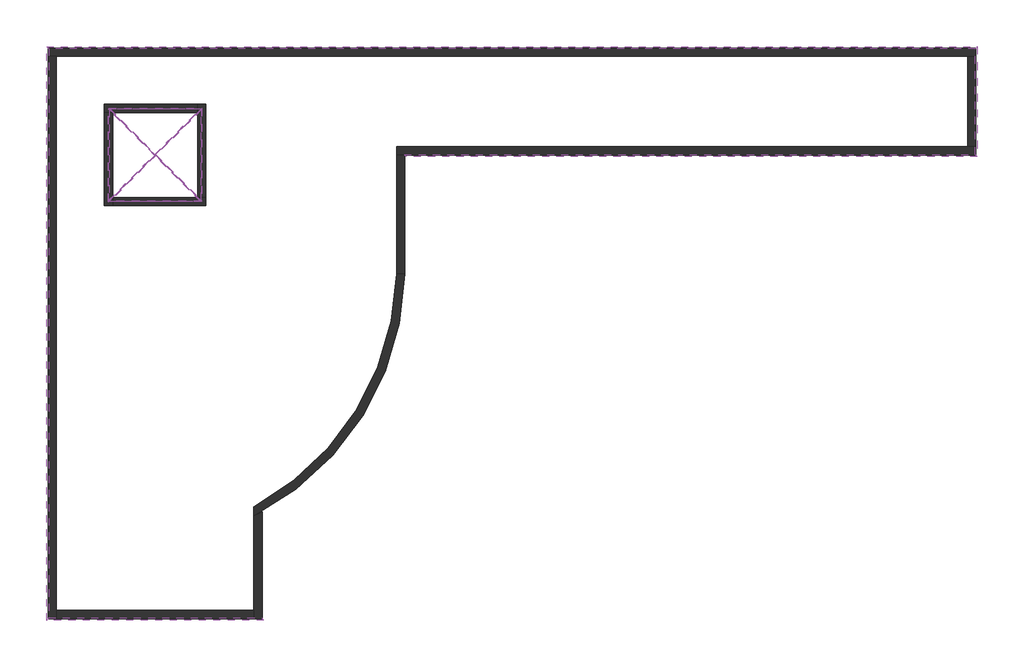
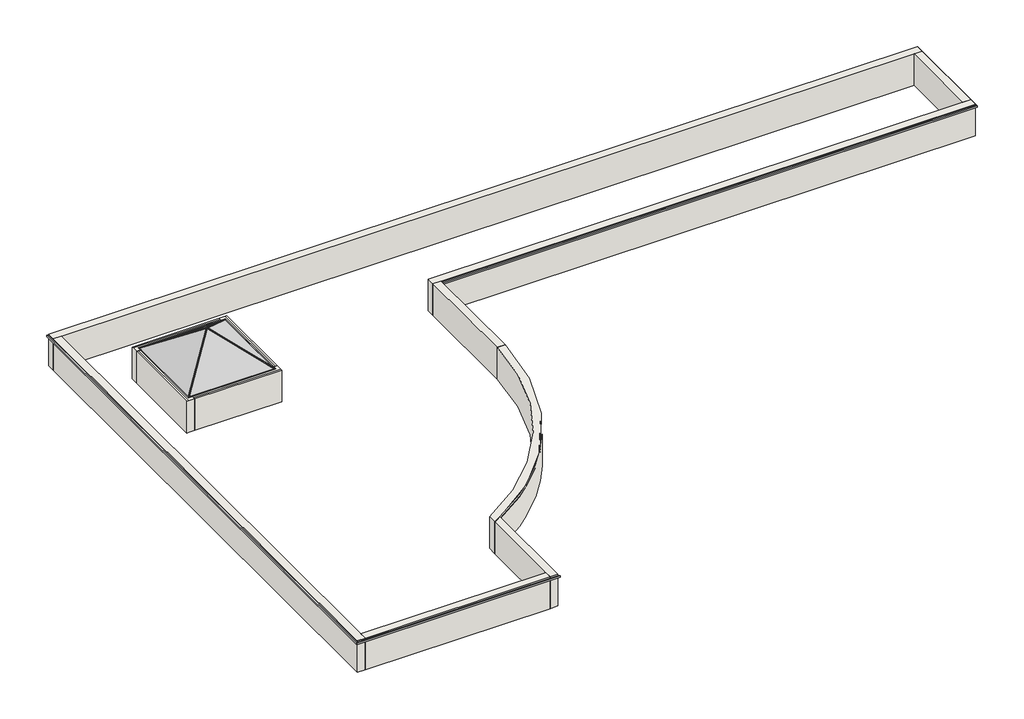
# One storey, incomplete: 12 members, 12 walls, 5 proxies, 4 plates.
"""IFC4 building model written with IfcOpenShell, lengths in millimetres."""

from ifc_helpers import new_model, si_unit, frame, origin, place, context, project, spatial, polyline, circle_curve, outline, extrude, faceted_brep, transform, mapped, element, save
from ifc_brep_helpers import plane_surface, cylinder_surface, revolved_surface, advanced_brep
from components import member_621c6d7b, member_86c85992, member_e654893a, system_panel_glazed_41d4b6ee

model = new_model("IFC4")

# Units and contexts
model_context = context("Model", 3, world=origin())
ifc_project = project(units=[si_unit("LENGTHUNIT", "METRE", prefix="MILLI")], contexts=[model_context])

# Site, building, storey
site = spatial("IfcSite", under=ifc_project)
building = spatial("IfcBuilding", under=site)
storey = spatial("IfcBuildingStorey", under=building, Name="04 T.O. Roof", Elevation=13716.0)

# Proxies
placement = place(None, origin())
element("IfcBuildingElementProxy", 1, Name="Reveals", at=placement, inside=storey, context=model_context, shape_type="SweptSolid", body=[
    extrude(outline(polyline([(-19497.3273699, 9224.7746638), (-19589.4023699, 9316.8496638), (20167.9476301, 9316.8496638), (20075.8726301, 9224.7746638), (-19497.3273699, 9224.7746638)])), frame((0.0, 0.0, 15113.0), z_axis=(0.0, 0.0, 1.0), x_axis=(1.0, 0.0, 0.0)), (0.0, 0.0, 1.0), 67.7333333),
])
element("IfcBuildingElementProxy", 2, Name="Reveals", at=placement, inside=storey, context=model_context, shape_type="SweptSolid", body=[
    extrude(outline(polyline([(-19497.3273699, -15108.4253362), (-19589.4023699, -15200.5003362), (-19589.4023699, 9316.8496638), (-19497.3273699, 9224.7746638), (-19497.3273699, -15108.4253362)])), frame((0.0, 0.0, 15113.0), z_axis=(0.0, 0.0, 1.0), x_axis=(1.0, 0.0, 0.0)), (0.0, 0.0, 1.0), 67.7333333),
])
element("IfcBuildingElementProxy", 3, Name="Reveals", at=placement, inside=storey, context=model_context, shape_type="SweptSolid", body=[
    extrude(outline(polyline([(-4216.0523699, 4611.4996638), (-4308.1273699, 4703.5746638), (20075.8726301, 4703.5746638), (20167.9476301, 4611.4996638), (-4216.0523699, 4611.4996638)])), frame((0.0, 0.0, 15113.0), z_axis=(0.0, 0.0, 1.0), x_axis=(1.0, 0.0, 0.0)), (0.0, 0.0, 1.0), 67.7333333),
])
element("IfcBuildingElementProxy", 4, Name="Reveals", at=placement, inside=storey, context=model_context, shape_type="SweptSolid", body=[
    extrude(outline(polyline([(20167.9476301, 4611.4996638), (20075.8726301, 4703.5746638), (20075.8726301, 9224.7746638), (20167.9476301, 9316.8496638), (20167.9476301, 4611.4996638)])), frame((0.0, 0.0, 15113.0), z_axis=(0.0, 0.0, 1.0), x_axis=(1.0, 0.0, 0.0)), (0.0, 0.0, 1.0), 67.7333333),
])
element("IfcBuildingElementProxy", 5, Name="Reveals", at=placement, inside=storey, context=model_context, shape_type="SweptSolid", body=[
    extrude(outline(polyline([(-19589.4023699, -15200.5003362), (-19497.3273699, -15108.4253362), (-10404.1273699, -15108.4253362), (-10312.0523699, -15200.5003362), (-19589.4023699, -15200.5003362)])), frame((0.0, 0.0, 15113.0), z_axis=(0.0, 0.0, 1.0), x_axis=(1.0, 0.0, 0.0)), (0.0, 0.0, 1.0), 67.7333333),
])

# Members
member_shape = member_621c6d7b(model_context)
element("IfcMember", 6, ObjectType="Rectangular Mullion : 1\" Square", at=placement, inside=storey, context=model_context, shape_type="MappedRepresentation", body=[
    mapped(member_shape, transform((-12963.1773699, 6665.7246638, 15240.0), x_axis=(0.7999999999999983, 0.0, -0.6000000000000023), y_axis=(-0.6000000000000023, 0.0, -0.7999999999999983), z_axis=(0.0, 1.0, 0.0))),
])
element("IfcMember", 7, ObjectType="Rectangular Mullion : 1\" Square", at=placement, inside=storey, context=model_context, shape_type="MappedRepresentation", body=[
    mapped(member_shape, transform((-16938.2773699, 2690.6246638, 15240.0), x_axis=(-0.7999999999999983, 0.0, -0.6000000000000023), y_axis=(0.6000000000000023, 0.0, -0.7999999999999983), z_axis=(0.0, -1.0, 0.0))),
])
element("IfcMember", 8, ObjectType="Rectangular Mullion : 1\" Square", at=placement, inside=storey, context=model_context, shape_type="MappedRepresentation", body=[
    mapped(member_shape, transform((-16938.2773699, 6665.7246638, 15240.0), x_axis=(0.0, 0.7999999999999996, -0.6000000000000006), y_axis=(0.0, -0.6000000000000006, -0.7999999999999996), z_axis=(-1.0, 0.0, 0.0))),
])
member_2_shape = member_86c85992(model_context)
element("IfcMember", 9, ObjectType="Rectangular Mullion : 1\" Square", at=placement, inside=storey, context=model_context, shape_type="MappedRepresentation", body=[
    mapped(member_2_shape, transform((-12963.1773699, 2690.6246638, 15240.0), x_axis=(-0.49975603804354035, -0.7808688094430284, 0.3748170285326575), y_axis=(-0.6000000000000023, 0.0, -0.7999999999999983), z_axis=(0.6246950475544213, -0.6246950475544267, -0.4685212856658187))),
])
element("IfcMember", 10, ObjectType="Rectangular Mullion : 1\" Square", at=placement, inside=storey, context=model_context, shape_type="MappedRepresentation", body=[
    mapped(member_2_shape, transform((-16938.2773699, 2690.6246638, 15240.0), x_axis=(-0.7808688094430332, 0.49975603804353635, 0.37481702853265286), y_axis=(0.0, 0.6000000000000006, -0.7999999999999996), z_axis=(-0.6246950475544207, -0.6246950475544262, -0.46852128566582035))),
])
member_3_shape = member_e654893a(model_context)
element("IfcMember", 11, ObjectType="Rectangular Mullion : 1\" Square", at=placement, inside=storey, context=model_context, shape_type="MappedRepresentation", body=[
    mapped(member_3_shape, transform((-14950.7273699, 4678.1746638, 16730.6625), x_axis=(-0.4997560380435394, 0.7808688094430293, 0.3748170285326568), y_axis=(-0.6000000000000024, 0.0, -0.7999999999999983), z_axis=(-0.624695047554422, -0.6246950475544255, 0.46852128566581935))),
])
element("IfcMember", 12, ObjectType="Rectangular Mullion : 1\" Square", at=placement, inside=storey, context=model_context, shape_type="MappedRepresentation", body=[
    mapped(member_2_shape, transform((-16938.2773699, 6665.7246638, 15240.0), x_axis=(0.4997560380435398, 0.7808688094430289, 0.3748170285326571), y_axis=(0.6000000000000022, 0.0, -0.7999999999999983), z_axis=(-0.6246950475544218, 0.6246950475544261, -0.4685212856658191))),
])
element("IfcMember", 13, ObjectType="Rectangular Mullion : 1\" Square", at=placement, inside=storey, context=model_context, shape_type="MappedRepresentation", body=[
    mapped(member_2_shape, transform((-12963.1773699, 6665.7246638, 15240.0), x_axis=(0.7808688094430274, -0.4997560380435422, 0.37481702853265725), y_axis=(0.0, -0.6000000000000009, -0.7999999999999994), z_axis=(0.6246950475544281, 0.6246950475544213, -0.46852128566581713))),
])
element("IfcMember", 14, ObjectType="Rectangular Mullion : 1\" Square", at=placement, inside=storey, context=model_context, shape_type="MappedRepresentation", body=[
    mapped(member_3_shape, transform((-14950.7273699, 4678.1746638, 16730.6625), x_axis=(0.49975603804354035, -0.7808688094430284, 0.3748170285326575), y_axis=(0.6000000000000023, 0.0, -0.7999999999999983), z_axis=(0.6246950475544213, 0.6246950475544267, 0.4685212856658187))),
])
element("IfcMember", 15, ObjectType="Rectangular Mullion : 1\" Square", at=placement, inside=storey, context=model_context, shape_type="MappedRepresentation", body=[
    mapped(member_3_shape, transform((-14950.7273699, 4678.1746638, 16730.6625), x_axis=(-0.7808688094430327, -0.4997560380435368, 0.3748170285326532), y_axis=(0.0, -0.6000000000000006, -0.7999999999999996), z_axis=(0.6246950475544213, -0.6246950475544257, 0.4685212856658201))),
])
element("IfcMember", 16, ObjectType="Rectangular Mullion : 1\" Square", at=placement, inside=storey, context=model_context, shape_type="MappedRepresentation", body=[
    mapped(member_shape, transform((-12963.1773699, 2690.6246638, 15240.0), x_axis=(0.0, -0.7999999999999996, -0.6000000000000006), y_axis=(0.0, 0.6000000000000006, -0.7999999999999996), z_axis=(1.0, 0.0, 0.0))),
])
element("IfcMember", 17, ObjectType="Rectangular Mullion : 1\" Square", at=placement, inside=storey, context=model_context, shape_type="MappedRepresentation", body=[
    mapped(member_3_shape, transform((-14950.7273699, 4678.1746638, 16730.6625), x_axis=(0.7808688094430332, 0.49975603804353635, 0.37481702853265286), y_axis=(0.0, 0.6000000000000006, -0.7999999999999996), z_axis=(-0.6246950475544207, 0.6246950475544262, 0.46852128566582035))),
])

# Plates
system_panel_glazed_shape = system_panel_glazed_41d4b6ee(model_context)
element("IfcPlate", 18, ObjectType="System Panel : Glazed", at=placement, inside=storey, context=model_context, shape_type="MappedRepresentation", body=[
    mapped(system_panel_glazed_shape, transform((-14950.7273699, 6665.7246638, 15240.0), x_axis=(-1.0, 0.0, 0.0), y_axis=(0.0, -0.6000000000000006, -0.7999999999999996), z_axis=(0.0, -0.7999999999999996, 0.6000000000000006))),
])
element("IfcPlate", 19, ObjectType="System Panel : Glazed", at=placement, inside=storey, context=model_context, shape_type="MappedRepresentation", body=[
    mapped(system_panel_glazed_shape, transform((-16938.2773699, 4678.1746638, 15240.0), x_axis=(0.0, -1.0, 0.0), y_axis=(0.6000000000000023, 0.0, -0.7999999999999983), z_axis=(0.7999999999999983, 0.0, 0.6000000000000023))),
])
element("IfcPlate", 20, ObjectType="System Panel : Glazed", at=placement, inside=storey, context=model_context, shape_type="MappedRepresentation", body=[
    mapped(system_panel_glazed_shape, transform((-14950.7273699, 2690.6246638, 15240.0), x_axis=(1.0, 0.0, 0.0), y_axis=(0.0, 0.6000000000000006, -0.7999999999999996), z_axis=(0.0, 0.7999999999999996, 0.6000000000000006))),
])
element("IfcPlate", 21, ObjectType="System Panel : Glazed", at=placement, inside=storey, context=model_context, shape_type="MappedRepresentation", body=[
    mapped(system_panel_glazed_shape, transform((-12963.1773699, 4678.1746638, 15240.0), x_axis=(0.0, 1.0, 0.0), y_axis=(-0.6000000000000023, 0.0, -0.7999999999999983), z_axis=(-0.7999999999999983, 0.0, 0.6000000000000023))),
])

# Walls
element("IfcWall", 22, ObjectType="Ext Wall_14\"_Brick on CMU_E1", at=placement, inside=storey, context=model_context, shape_type="Brep", body=[
    faceted_brep([(-17116.0773699, 6487.9246638, 13716.0), (-16760.4773699, 6487.9246638, 13716.0), (-13140.9773699, 6487.9246638, 13716.0), (-13140.9773699, 6487.9246638, 15240.0), (-16760.4773699, 6487.9246638, 15240.0), (-17116.0773699, 6487.9246638, 15240.0), (-17116.0773699, 6843.5246638, 13716.0), (-17116.0773699, 6843.5246638, 15240.0), (-13140.9773699, 6843.5246638, 15240.0), (-13140.9773699, 6843.5246638, 13716.0), (-17116.0773699, 6767.3246638, 15240.0), (-17116.0773699, 6767.3246638, 13716.0), (-13140.9773699, 6767.3246638, 13716.0), (-13140.9773699, 6767.3246638, 15240.0)], [[[0, 1, 2, 3, 4, 5]], [[6, 7, 8, 9]], [[0, 5, 10, 7, 6, 11]], [[3, 2, 12, 9, 8, 13]], [[2, 1, 0, 11, 12]], [[11, 6, 9, 12]], [[13, 8, 7, 10]], [[5, 4, 3, 13, 10]]]),
])
element("IfcWall", 23, ObjectType="Ext Wall_14\"_Brick on CMU_E1", at=placement, inside=storey, context=model_context, shape_type="Brep", body=[
    faceted_brep([(-16760.4773699, 2512.8246638, 13716.0), (-16760.4773699, 2868.4246638, 13716.0), (-16760.4773699, 6487.9246638, 13716.0), (-16760.4773699, 6487.9246638, 15240.0), (-16760.4773699, 2868.4246638, 15240.0), (-16760.4773699, 2512.8246638, 15240.0), (-17116.0773699, 2512.8246638, 13716.0), (-17116.0773699, 2512.8246638, 15240.0), (-17116.0773699, 6487.9246638, 15240.0), (-17116.0773699, 6487.9246638, 13716.0), (-17039.8773699, 2512.8246638, 15240.0), (-17039.8773699, 2512.8246638, 13716.0), (-17039.8773699, 6487.9246638, 13716.0), (-17039.8773699, 6487.9246638, 15240.0)], [[[0, 1, 2, 3, 4, 5]], [[6, 7, 8, 9]], [[0, 5, 10, 7, 6, 11]], [[3, 2, 12, 9, 8, 13]], [[2, 1, 0, 11, 12]], [[11, 6, 9, 12]], [[13, 8, 7, 10]], [[5, 4, 3, 13, 10]]]),
])
element("IfcWall", 24, ObjectType="Ext Wall_14\"_Brick on CMU_E1", at=placement, inside=storey, context=model_context, shape_type="Brep", body=[
    faceted_brep([(-12785.3773699, 2868.4246638, 13716.0), (-13140.9773699, 2868.4246638, 13716.0), (-16760.4773699, 2868.4246638, 13716.0), (-16760.4773699, 2868.4246638, 15240.0), (-13140.9773699, 2868.4246638, 15240.0), (-12785.3773699, 2868.4246638, 15240.0), (-12785.3773699, 2512.8246638, 13716.0), (-12785.3773699, 2512.8246638, 15240.0), (-16760.4773699, 2512.8246638, 15240.0), (-16760.4773699, 2512.8246638, 13716.0), (-12785.3773699, 2589.0246638, 15240.0), (-12785.3773699, 2589.0246638, 13716.0), (-16760.4773699, 2589.0246638, 13716.0), (-16760.4773699, 2589.0246638, 15240.0)], [[[0, 1, 2, 3, 4, 5]], [[6, 7, 8, 9]], [[0, 5, 10, 7, 6, 11]], [[3, 2, 12, 9, 8, 13]], [[2, 1, 0, 11, 12]], [[11, 6, 9, 12]], [[13, 8, 7, 10]], [[5, 4, 3, 13, 10]]]),
])
element("IfcWall", 25, ObjectType="Ext Wall_14\"_Brick on CMU_E1", at=placement, inside=storey, context=model_context, shape_type="Brep", body=[
    faceted_brep([(-13140.9773699, 6843.5246638, 13716.0), (-13140.9773699, 6487.9246638, 13716.0), (-13140.9773699, 2868.4246638, 13716.0), (-13140.9773699, 2868.4246638, 15240.0), (-13140.9773699, 6487.9246638, 15240.0), (-13140.9773699, 6843.5246638, 15240.0), (-12785.3773699, 6843.5246638, 13716.0), (-12785.3773699, 6843.5246638, 15240.0), (-12785.3773699, 2868.4246638, 15240.0), (-12785.3773699, 2868.4246638, 13716.0), (-12861.5773699, 6843.5246638, 15240.0), (-12861.5773699, 6843.5246638, 13716.0), (-12861.5773699, 2868.4246638, 13716.0), (-12861.5773699, 2868.4246638, 15240.0)], [[[0, 1, 2, 3, 4, 5]], [[6, 7, 8, 9]], [[0, 5, 10, 7, 6, 11]], [[3, 2, 12, 9, 8, 13]], [[2, 1, 0, 11, 12]], [[11, 6, 9, 12]], [[13, 8, 7, 10]], [[5, 4, 3, 13, 10]]]),
])
element("IfcWall", 26, ObjectType="Parapet_14\"_Brick on CMU", at=placement, inside=storey, context=model_context, shape_type="Brep", body=[
    faceted_brep([(-19522.7273699, 8894.5746638, 13716.0), (-19167.1273699, 8894.5746638, 13716.0), (19745.6726301, 8894.5746638, 13716.0), (20101.2726301, 8894.5746638, 13716.0), (20101.2726301, 8894.5746638, 15113.0), (20075.8726301, 8894.5746638, 15113.0), (20075.8726301, 8894.5746638, 15180.7333333), (20101.2726301, 8894.5746638, 15180.7333333), (20101.2726301, 8894.5746638, 15240.0), (19745.6726301, 8894.5746638, 15240.0), (-19167.1273699, 8894.5746638, 15240.0), (-19522.7273699, 8894.5746638, 15240.0), (-19522.7273699, 8894.5746638, 15180.7333333), (-19497.3273699, 8894.5746638, 15180.7333333), (-19497.3273699, 8894.5746638, 15113.0), (-19522.7273699, 8894.5746638, 15113.0), (20101.2726301, 9250.1746638, 13716.0), (-19522.7273699, 9250.1746638, 13716.0), (-19522.7273699, 9250.1746638, 15113.0), (20101.2726301, 9250.1746638, 15113.0), (-19522.7273699, 9250.1746638, 15240.0), (20101.2726301, 9250.1746638, 15240.0), (20101.2726301, 9250.1746638, 15180.7333333), (-19522.7273699, 9250.1746638, 15180.7333333), (20075.8726301, 9224.7746638, 15180.7333333), (-19497.3273699, 9224.7746638, 15180.7333333), (-19497.3273699, 9224.7746638, 15113.0), (20075.8726301, 9224.7746638, 15113.0)], [[[0, 1, 2, 3, 4, 5, 6, 7, 8, 9, 10, 11, 12, 13, 14, 15]], [[16, 17, 18, 19]], [[20, 21, 22, 23]], [[3, 2, 1, 0, 17, 16]], [[11, 10, 9, 8, 21, 20]], [[11, 20, 23, 12]], [[17, 0, 15, 18]], [[3, 16, 19, 4]], [[21, 8, 7, 22]], [[24, 25, 13, 12, 23, 22, 7, 6]], [[26, 27, 5, 4, 19, 18, 15, 14]], [[25, 26, 14, 13]], [[25, 24, 27, 26]], [[27, 24, 6, 5]]]),
])
element("IfcWall", 27, ObjectType="Parapet_14\"_Brick on CMU", at=placement, inside=storey, context=model_context, shape_type="Brep", body=[
    faceted_brep([(-19167.1273699, -15133.8253362, 13716.0), (-19167.1273699, -14778.2253362, 13716.0), (-19167.1273699, 8894.5746638, 13716.0), (-19167.1273699, 8894.5746638, 15240.0), (-19167.1273699, -14778.2253362, 15240.0), (-19167.1273699, -15133.8253362, 15240.0), (-19167.1273699, -15133.8253362, 15180.7333333), (-19167.1273699, -15108.4253362, 15180.7333333), (-19167.1273699, -15108.4253362, 15113.0), (-19167.1273699, -15133.8253362, 15113.0), (-19522.7273699, 8894.5746638, 13716.0), (-19522.7273699, -15133.8253362, 13716.0), (-19522.7273699, -15133.8253362, 15113.0), (-19522.7273699, 8894.5746638, 15113.0), (-19522.7273699, -15133.8253362, 15240.0), (-19522.7273699, 8894.5746638, 15240.0), (-19522.7273699, 8894.5746638, 15180.7333333), (-19522.7273699, -15133.8253362, 15180.7333333), (-19497.3273699, 8894.5746638, 15113.0), (-19497.3273699, 8894.5746638, 15180.7333333), (-19497.3273699, -15108.4253362, 15180.7333333), (-19497.3273699, -15108.4253362, 15113.0)], [[[0, 1, 2, 3, 4, 5, 6, 7, 8, 9]], [[10, 11, 12, 13]], [[14, 15, 16, 17]], [[2, 1, 0, 11, 10]], [[5, 4, 3, 15, 14]], [[3, 2, 10, 13, 18, 19, 16, 15]], [[19, 20, 7, 6, 17, 16]], [[8, 21, 18, 13, 12, 9]], [[20, 21, 8, 7]], [[21, 20, 19, 18]], [[5, 14, 17, 6]], [[11, 0, 9, 12]]]),
])
element("IfcWall", 28, ObjectType="Parapet_14\"_Brick on CMU", at=placement, inside=storey, context=model_context, shape_type="SweptSolid", body=[
    extrude(outline(polyline([(-15133.8253362, 15240.0), (-14778.2253362, 15240.0), (-14778.2253362, 13716.0), (-15133.8253362, 13716.0), (-15133.8253362, 15113.0), (-15108.4253362, 15113.0), (-15108.4253362, 15180.7333333), (-15133.8253362, 15180.7333333), (-15133.8253362, 15240.0)])), frame((-19167.1273699, 0.0, 0.0), z_axis=(1.0, 0.0, 0.0), x_axis=(0.0, 1.0, 0.0)), (0.0, 0.0, 1.0), 8432.8),
])
element("IfcWall", 29, ObjectType="Parapet_14\"_Brick on CMU", at=placement, inside=storey, context=model_context, shape_type="AdvancedBrep", body=[
    advanced_brep(
    [(-10734.3273699, -10753.4735974, 13716.0), (-10734.3273699, -14778.2253362, 13716.0), (-10734.3273699, -15133.8253362, 13716.0), (-10734.3273699, -15133.8253362, 15113.0), (-10734.3273699, -15108.4253362, 15113.0), (-10734.3273699, -15108.4253362, 15180.7333333), (-10734.3273699, -15133.8253362, 15180.7333333), (-10734.3273699, -15133.8253362, 15240.0), (-10734.3273699, -14778.2253362, 15240.0), (-10734.3273699, -10753.4735974, 15240.0), (-10378.7273699, -15133.8253362, 13716.0), (-10378.7273699, -10561.8253362, 13716.0), (-10378.7273699, -10561.8253362, 15113.0), (-10378.7273699, -15133.8253362, 15113.0), (-10378.7273699, -10561.8253362, 15240.0), (-10378.7273699, -15133.8253362, 15240.0), (-10378.7273699, -15133.8253362, 15180.7333333), (-10378.7273699, -10561.8253362, 15180.7333333), (-10404.1273699, -10576.0334488, 15180.7333333), (-10404.1273699, -10576.0334488, 15113.0), (-10404.1273699, -15108.4253362, 15180.7333333), (-10404.1273699, -15108.4253362, 15113.0)],
    [
        (0, 1),
        (1, 2),
        (2, 3),
        (3, 4),
        (4, 5),
        (5, 6),
        (6, 7),
        (7, 8),
        (8, 9),
        (9, 0),
        (10, 11),
        (11, 12),
        (12, 13),
        (13, 10),
        (14, 15),
        (15, 16),
        (16, 17),
        (17, 14),
        (0, 11, circle_curve(frame((-16220.7273699, -147.8253362, 13716.0), z_axis=(0.0, 0.0, 1.0), x_axis=(1.0, 0.0, 0.0)), 11940.7018219)),
        (10, 2),
        (7, 15),
        (14, 9, circle_curve(frame((-16220.7273699, -147.8253362, 15240.0), z_axis=(0.0, 0.0, -1.0), x_axis=(1.0, 0.0, 0.0)), 11940.7018219)),
        (17, 18, circle_curve(frame((-16220.7273699, -147.8253362, 15180.7333333), z_axis=(0.0, 0.0, -1.0), x_axis=(1.0, 0.0, 0.0)), 11940.7018219)),
        (18, 19),
        (19, 12, circle_curve(frame((-16220.7273699, -147.8253362, 15113.0), z_axis=(0.0, 0.0, 1.0), x_axis=(1.0, 0.0, 0.0)), 11940.7018219)),
        (5, 20),
        (20, 18),
        (16, 6),
        (19, 21),
        (21, 4),
        (3, 13),
        (20, 21),
    ],
    [
        plane_surface(frame((-10734.3273699, -19189.7805979, 13716.0), z_axis=(-1.0, 0.0, 0.0), x_axis=(0.0, -1.0, 0.0))),
        plane_surface(frame((-10378.7273699, -19189.7805979, 13716.0), z_axis=(1.0, 0.0, 0.0), x_axis=(0.0, 1.0, 0.0))),
        plane_surface(frame((-10734.3273699, -10457.1753464, 13716.0), z_axis=(0.0, 0.0, -1.0), x_axis=(1.0, 0.0, 0.0))),
        plane_surface(frame((-10734.3273699, -14956.0253362, 15240.0), z_axis=(0.0, 0.0, 1.0), x_axis=(1.0, 0.0, 0.0))),
        revolved_surface(polyline([(-4280.025548, -147.8253362, 15240.0), (-4280.025548, -147.8253362, 13716.0)]), (-16220.7273699, -147.8253362, 13716.0), (0.0, 0.0, 1.0)),
        plane_surface(frame((-16220.7273699, -147.8253362, 15180.7333333), z_axis=(0.0, 0.0, -1.0), x_axis=(0.9997737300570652, -0.021271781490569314, 0.0))),
        plane_surface(frame((-16220.7273699, -147.8253362, 15113.0), z_axis=(0.0, 0.0, 1.0), x_axis=(0.9997737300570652, -0.021271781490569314, 0.0))),
        plane_surface(frame((-10404.1273699, -10546.9398152, 15113.0), z_axis=(1.0, 0.0, 0.0), x_axis=(0.0, -1.0, 0.0))),
        plane_surface(frame((-19335.4023699, -15133.8253362, 13716.0), z_axis=(0.0, -1.0, 0.0), x_axis=(1.0, 0.0, 0.0))),
        plane_surface(frame((-10404.1273699, -15108.4253362, 15113.0), z_axis=(0.0, -1.0, 0.0), x_axis=(-1.0, 0.0, 0.0))),
    ],
    [
        (0, [[1, 2, 3, 4, 5, 6, 7, 8, 9, 10]]),
        (1, [[11, 12, 13, 14]]),
        (1, [[15, 16, 17, 18]]),
        (2, [[-2, -1, 19, -11, 20]]),
        (3, [[-9, -8, 21, -15, 22]]),
        (4, [[-10, -22, -18, 23, 24, 25, -12, -19]]),
        (5, [[26, 27, -23, -17, 28, -6]]),
        (6, [[29, 30, -4, 31, -13, -25]]),
        (7, [[32, -29, -24, -27]]),
        (8, [[-20, -14, -31, -3]]),
        (8, [[-21, -7, -28, -16]]),
        (9, [[-32, -26, -5, -30]]),
    ],
),
])
element("IfcWall", 30, ObjectType="Parapet_14\"_Brick on CMU", at=placement, inside=storey, context=model_context, shape_type="Brep", body=[
    faceted_brep([(-4638.3273699, 4678.1746638, 13716.0), (-4282.7273699, 4678.1746638, 13716.0), (20101.2726301, 4678.1746638, 13716.0), (20101.2726301, 4678.1746638, 15113.0), (-4282.7273699, 4678.1746638, 15113.0), (-4308.1273699, 4678.1746638, 15113.0), (-4308.1273699, 4678.1746638, 15180.7333333), (-4282.7273699, 4678.1746638, 15180.7333333), (20101.2726301, 4678.1746638, 15180.7333333), (20101.2726301, 4678.1746638, 15240.0), (-4282.7273699, 4678.1746638, 15240.0), (-4638.3273699, 4678.1746638, 15240.0), (20101.2726301, 5033.7746638, 13716.0), (19745.6726301, 5033.7746638, 13716.0), (-4638.3273699, 5033.7746638, 13716.0), (-4638.3273699, 5033.7746638, 15240.0), (19745.6726301, 5033.7746638, 15240.0), (20101.2726301, 5033.7746638, 15240.0), (20101.2726301, 5033.7746638, 15180.7333333), (20075.8726301, 5033.7746638, 15180.7333333), (20075.8726301, 5033.7746638, 15113.0), (20101.2726301, 5033.7746638, 15113.0), (-4308.1273699, 4703.5746638, 15113.0), (-4308.1273699, 4703.5746638, 15180.7333333), (20075.8726301, 4703.5746638, 15113.0), (20075.8726301, 4703.5746638, 15180.7333333)], [[[0, 1, 2, 3, 4, 5, 6, 7, 8, 9, 10, 11]], [[12, 13, 14, 15, 16, 17, 18, 19, 20, 21]], [[2, 1, 0, 14, 13, 12]], [[11, 10, 9, 17, 16, 15]], [[2, 12, 21, 3]], [[17, 9, 8, 18]], [[0, 11, 15, 14]], [[22, 23, 6, 5]], [[24, 22, 5, 4, 3, 21, 20]], [[23, 25, 19, 18, 8, 7, 6]], [[23, 22, 24, 25]], [[25, 24, 20, 19]]]),
])
element("IfcWall", 31, ObjectType="Parapet_14\"_Brick on CMU", at=placement, inside=storey, context=model_context, shape_type="SweptSolid", body=[
    extrude(outline(polyline([(15240.0, 20101.2726301), (15240.0, 19745.6726301), (13716.0, 19745.6726301), (13716.0, 20101.2726301), (15113.0, 20101.2726301), (15113.0, 20075.8726301), (15180.7333333, 20075.8726301), (15180.7333333, 20101.2726301), (15240.0, 20101.2726301)])), frame((0.0, 5033.7746638, 0.0), z_axis=(0.0, 1.0, 0.0), x_axis=(0.0, 0.0, 1.0)), (0.0, 0.0, 1.0), 3860.8),
])
element("IfcWall", 32, ObjectType="Parapet_14\"_Brick on CMU", at=placement, inside=storey, context=model_context, shape_type="Brep", body=[
    faceted_brep([(-4638.3273699, 4678.1746638, 13716.0), (-4638.3273699, -398.0141934, 13716.0), (-4638.3273699, -398.0141934, 15240.0), (-4638.3273699, 4678.1746638, 15240.0), (-4282.7273699, -401.8253362, 13716.0), (-4282.7273699, 4678.1746638, 13716.0), (-4282.7273699, 4678.1746638, 15113.0), (-4282.7273699, -401.8253362, 15113.0), (-4282.7273699, 4678.1746638, 15240.0), (-4282.7273699, -401.8253362, 15240.0), (-4282.7273699, -401.8253362, 15180.7333333), (-4282.7273699, 4678.1746638, 15180.7333333), (-4308.1273496, -401.5531119, 15113.0), (-4308.127365, -401.5531117, 15180.7333333), (-4308.1273699, 4678.1746638, 15180.7333333), (-4308.1273699, 4678.1746638, 15113.0)], [[[0, 1, 2, 3]], [[4, 5, 6, 7]], [[8, 9, 10, 11]], [[1, 0, 5, 4]], [[3, 2, 9, 8]], [[2, 1, 4, 7, 12, 13, 10, 9]], [[0, 3, 8, 11, 14, 15, 6, 5]], [[12, 15, 14, 13]], [[13, 14, 11, 10]], [[15, 12, 7, 6]]]),
])
element("IfcWall", 33, ObjectType="Parapet_14\"_Brick on CMU", at=placement, inside=storey, context=model_context, shape_type="AdvancedBrep", body=[
    advanced_brep(
    [(-10734.3273699, -10753.4735974, 15240.0), (-10378.7295376, -10561.8265432, 15240.0), (-4282.7273699, -401.8253362, 15240.0), (-4638.3273699, -398.0141934, 15240.0), (-10734.3273699, -10351.4521063, 15240.0), (-4282.7273699, -401.8253362, 13716.0), (-10378.7295376, -10561.8265432, 13716.0), (-10734.3273699, -10753.4735974, 13716.0), (-10734.3273699, -10351.4521063, 13716.0), (-4638.3273699, -398.0141934, 13716.0), (-4282.7273699, -401.8253362, 15113.0), (-10378.7273699, -10561.8253362, 15113.0), (-10404.1273699, -10576.0334488, 15113.0), (-10404.1273699, -10576.0334488, 15180.7333333), (-10378.7273699, -10561.8253362, 15180.7333333), (-4282.7273699, -401.8253362, 15180.7333333), (-4308.1273496, -401.5531119, 15180.7333333), (-4308.1273295, -401.5531121, 15113.0), (-10404.1273699, -10546.9398152, 15180.7333333), (-10404.1273699, -10546.9398152, 15113.0)],
    [
        (0, 1, circle_curve(frame((-16220.7273699, -147.8253362, 15240.0), z_axis=(0.0, 0.0, 1.0), x_axis=(1.0, 0.0, 0.0)), 11940.7018219)),
        (1, 2, circle_curve(frame((-16220.7273699, -147.8253362, 15240.0), z_axis=(0.0, 0.0, 1.0), x_axis=(1.0, 0.0, 0.0)), 11940.7018141)),
        (2, 3),
        (3, 4, circle_curve(frame((-16220.7273699, -147.8253362, 15240.0), z_axis=(0.0, 0.0, -1.0), x_axis=(1.0, 0.0, 0.0)), 11585.1018219)),
        (4, 0),
        (5, 6, circle_curve(frame((-16220.7273699, -147.8253362, 13716.0), z_axis=(0.0, 0.0, -1.0), x_axis=(1.0, 0.0, 0.0)), 11940.7018219)),
        (6, 7, circle_curve(frame((-16220.7273699, -147.8253362, 13716.0), z_axis=(0.0, 0.0, -1.0), x_axis=(1.0, 0.0, 0.0)), 11940.7018141)),
        (7, 8),
        (8, 9, circle_curve(frame((-16220.7273699, -147.8253362, 13716.0), z_axis=(0.0, 0.0, 1.0), x_axis=(1.0, 0.0, 0.0)), 11585.1018219)),
        (9, 5),
        (0, 7),
        (5, 10),
        (10, 11, circle_curve(frame((-16220.7273699, -147.8253362, 15113.0), z_axis=(0.0, 0.0, -1.0), x_axis=(1.0, 0.0, 0.0)), 11940.7018219)),
        (11, 12, circle_curve(frame((-16220.7273699, -147.8253362, 15113.0), z_axis=(0.0, 0.0, -1.0), x_axis=(1.0, 0.0, 0.0)), 11940.7018219)),
        (12, 13),
        (13, 14, circle_curve(frame((-16220.7273699, -147.8253362, 15180.7333333), z_axis=(0.0, 0.0, 1.0), x_axis=(1.0, 0.0, 0.0)), 11940.7018219)),
        (14, 15, circle_curve(frame((-16220.7273699, -147.8253362, 15180.7333333), z_axis=(0.0, 0.0, 1.0), x_axis=(1.0, 0.0, 0.0)), 11940.7018219)),
        (15, 2),
        (3, 9),
        (8, 4),
        (15, 16),
        (16, 17),
        (17, 10),
        (18, 16, circle_curve(frame((-16220.7273699, -147.8253362, 15180.7333333), z_axis=(0.0, 0.0, 1.0), x_axis=(0.9997737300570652, -0.021271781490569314, 0.0)), 11915.3018219)),
        (13, 18),
        (17, 19, circle_curve(frame((-16220.7273699, -147.8253362, 15113.0), z_axis=(0.0, 0.0, -1.0), x_axis=(0.9997737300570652, -0.021271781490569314, 0.0)), 11915.3018219)),
        (19, 12),
        (18, 19),
    ],
    [
        plane_surface(frame((-4280.025548, -147.8253362, 15240.0), z_axis=(0.0, 0.0, 1.0), x_axis=(0.0, 1.0, 0.0))),
        plane_surface(frame((-4280.025548, -147.8253362, 13716.0), z_axis=(0.0, 0.0, -1.0), x_axis=(0.0, -1.0, 0.0))),
        cylinder_surface(frame((-16220.7273699, -147.8253362, 13716.0), z_axis=(0.0, 0.0, 1.0), x_axis=(1.0, 0.0, 0.0)), 11940.7018219),
        revolved_surface(polyline([(-4635.625548, -147.8253362, 13716.0), (-4635.625548, -147.8253362, 15240.0)]), (-16220.7273699, -147.8253362, 13716.0), (0.0, 0.0, -1.0)),
        plane_surface(frame((-10734.3273699, -19189.7805979, 13716.0), z_axis=(-1.0, 0.0, 0.0), x_axis=(0.0, -1.0, 0.0))),
        plane_surface(frame((-4282.7273699, -401.8253362, 13716.0), z_axis=(0.010716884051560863, 0.9999425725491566, 0.0), x_axis=(-0.9999425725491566, 0.010716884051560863, 0.0))),
        plane_surface(frame((-16220.7273699, -147.8253362, 15180.7333333), z_axis=(0.0, 0.0, -1.0), x_axis=(0.9997737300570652, -0.021271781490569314, 0.0))),
        plane_surface(frame((-16220.7273699, -147.8253362, 15113.0), z_axis=(0.0, 0.0, 1.0), x_axis=(0.9997737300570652, -0.021271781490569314, 0.0))),
        cylinder_surface(frame((-16220.7273699, -147.8253362, 15113.0), z_axis=(0.0, 0.0, -1.0), x_axis=(0.9997737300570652, -0.021271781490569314, 0.0)), 11915.3018219),
        plane_surface(frame((-10404.1273699, -10546.9398152, 15113.0), z_axis=(1.0, 0.0, 0.0), x_axis=(0.0, -1.0, 0.0))),
    ],
    [
        (0, [[1, 2, 3, 4, 5]]),
        (1, [[6, 7, 8, 9, 10]]),
        (2, [[-2, -1, 11, -7, -6, 12, 13, 14, 15, 16, 17, 18]]),
        (3, [[-4, 19, -9, 20]]),
        (4, [[-5, -20, -8, -11]]),
        (5, [[-3, -18, 21, 22, 23, -12, -10, -19]]),
        (6, [[24, -21, -17, -16, 25]]),
        (7, [[26, 27, -14, -13, -23]]),
        (8, [[-24, 28, -26, -22]]),
        (9, [[-28, -25, -15, -27]]),
    ],
),
])

save(model, "model.ifc")
